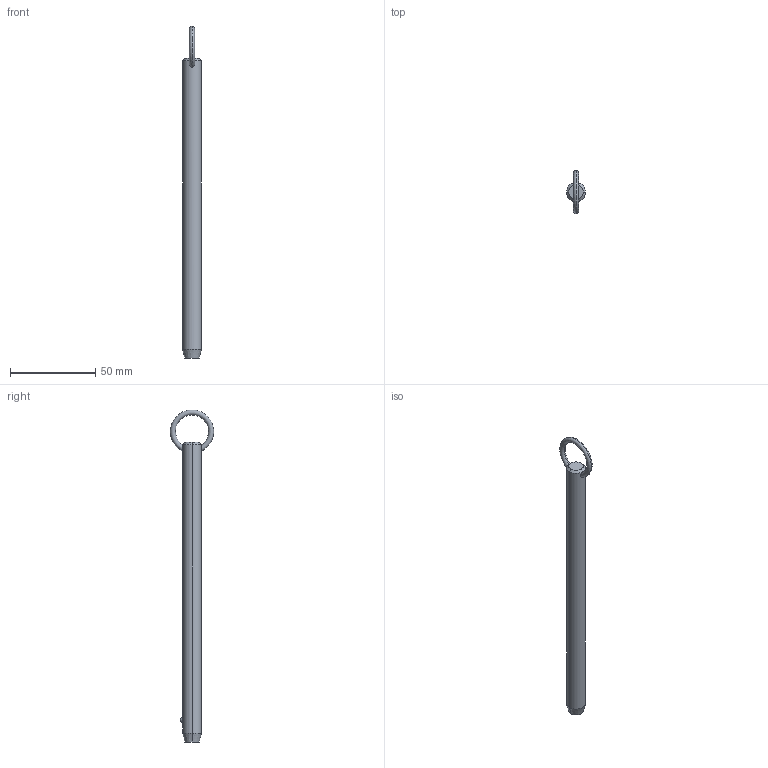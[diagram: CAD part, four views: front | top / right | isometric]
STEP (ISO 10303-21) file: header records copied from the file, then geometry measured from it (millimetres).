
FILE_DESCRIPTION (( 'STEP AP203' ), '1' );
FILE_NAME ('P1250.050-610.step', '2019-07-29T20:41:12', ( '' ), ( '' ), 'SwSTEP 2.0', 'SolidWorks 2017', '' );
FILE_SCHEMA (( 'CONFIG_CONTROL_DESIGN' ));
Length unit declared in the file: millimetre
Products named in the file (1): P1250.050-610
Bounding box: 11.1 x 25.32 x 194.45 mm (x, y, z)
Volume: 17265.7 mm3; surface area: 6772.6 mm2
Topology: 1 solids, 1 shells, 12 faces, 28 edges, 17 vertices
Faces by surface type: cone 4, torus 2, sphere 2, cylinder 2, plane 2
Entity records: 523 total; most frequent: CARTESIAN_POINT 190, DIRECTION 56, ORIENTED_EDGE 48, AXIS2_PLACEMENT_3D 25, EDGE_CURVE 24, EDGE_LOOP 15, VERTEX_POINT 15, CIRCLE 12
